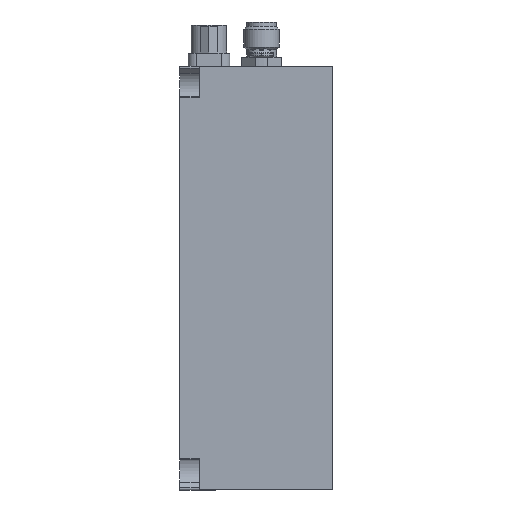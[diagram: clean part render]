
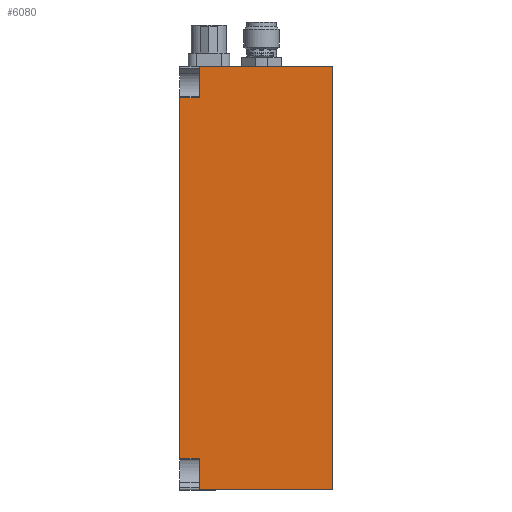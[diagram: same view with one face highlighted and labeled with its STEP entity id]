
A CAD part, left-side view. The second image highlights one B-rep face of the part: STEP entity #6080.
In plain terms, the highlighted planar face has unit normal (-1, 0, 0).
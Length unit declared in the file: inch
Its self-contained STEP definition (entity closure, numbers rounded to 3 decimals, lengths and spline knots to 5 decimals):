
#1607 = VECTOR ( 'NONE', #10086, 39.37008 ) ;
#2538 = LINE ( 'NONE', #5348, #21683 ) ;
#2617 = DIRECTION ( 'NONE',  ( 0., 1., 0. ) ) ;
#2886 = VERTEX_POINT ( 'NONE', #9912 ) ;
#3266 = DIRECTION ( 'NONE',  ( 0., -1., 0. ) ) ;
#3498 = CARTESIAN_POINT ( 'NONE',  ( -1., 1.082, -1.5 ) ) ;
#3588 = ORIENTED_EDGE ( 'NONE', *, *, #24955, .T. ) ;
#4226 = CARTESIAN_POINT ( 'NONE',  ( -1., 0.942, -1.27698 ) ) ;
#4249 = EDGE_CURVE ( 'NONE', #30197, #2886, #24858, .T. ) ;
#5152 = EDGE_CURVE ( 'NONE', #16798, #9331, #17931, .T. ) ;
#5239 = VERTEX_POINT ( 'NONE', #6098 ) ;
#5348 = CARTESIAN_POINT ( 'NONE',  ( -1., 0.942, 1.27698 ) ) ;
#5600 = VERTEX_POINT ( 'NONE', #13236 ) ;
#6038 = AXIS2_PLACEMENT_3D ( 'NONE', #10120, #24258, #9917 ) ;
#6080 = ADVANCED_FACE ( 'NONE', ( #7403 ), #28760, .F. ) ;
#6098 = CARTESIAN_POINT ( 'NONE',  ( -1., 0., -1.5 ) ) ;
#6247 = ORIENTED_EDGE ( 'NONE', *, *, #10892, .F. ) ;
#6309 = LINE ( 'NONE', #13330, #13849 ) ;
#7403 = FACE_OUTER_BOUND ( 'NONE', #13042, .T. ) ;
#7774 = CARTESIAN_POINT ( 'NONE',  ( -1., 1.082, -1.27698 ) ) ;
#8371 = CARTESIAN_POINT ( 'NONE',  ( -1., 1.082, 1.27698 ) ) ;
#8942 = LINE ( 'NONE', #3498, #10454 ) ;
#9331 = VERTEX_POINT ( 'NONE', #29510 ) ;
#9912 = CARTESIAN_POINT ( 'NONE',  ( -1., 0.942, -1.27698 ) ) ;
#9917 = DIRECTION ( 'NONE',  ( 0., 0., -1. ) ) ;
#10086 = DIRECTION ( 'NONE',  ( 0., 0., 1. ) ) ;
#10120 = CARTESIAN_POINT ( 'NONE',  ( -1., 1.082, -1.5 ) ) ;
#10454 = VECTOR ( 'NONE', #27198, 39.37008 ) ;
#10525 = CARTESIAN_POINT ( 'NONE',  ( -1., 1.082, -1.5 ) ) ;
#10892 = EDGE_CURVE ( 'NONE', #2886, #13750, #12539, .T. ) ;
#12380 = CARTESIAN_POINT ( 'NONE',  ( -1., 0.942, -1.5 ) ) ;
#12539 = LINE ( 'NONE', #4226, #30864 ) ;
#12665 = ORIENTED_EDGE ( 'NONE', *, *, #15342, .F. ) ;
#13042 = EDGE_LOOP ( 'NONE', ( #20057, #16263, #6247, #30097, #25342, #3588, #20093, #12665 ) ) ;
#13234 = DIRECTION ( 'NONE',  ( 0., 0., 1. ) ) ;
#13236 = CARTESIAN_POINT ( 'NONE',  ( -1., 0.942, 1.27698 ) ) ;
#13330 = CARTESIAN_POINT ( 'NONE',  ( -1., 0.942, 1.5 ) ) ;
#13750 = VERTEX_POINT ( 'NONE', #7774 ) ;
#13849 = VECTOR ( 'NONE', #13234, 39.37008 ) ;
#15342 = EDGE_CURVE ( 'NONE', #5600, #16798, #6309, .T. ) ;
#16263 = ORIENTED_EDGE ( 'NONE', *, *, #25460, .F. ) ;
#16682 = VECTOR ( 'NONE', #3266, 39.37008 ) ;
#16798 = VERTEX_POINT ( 'NONE', #25647 ) ;
#16908 = CARTESIAN_POINT ( 'NONE',  ( -1., 0.942, -1.27698 ) ) ;
#17552 = VECTOR ( 'NONE', #29571, 39.37008 ) ;
#17931 = LINE ( 'NONE', #22368, #17552 ) ;
#20033 = EDGE_CURVE ( 'NONE', #30197, #5239, #30150, .T. ) ;
#20057 = ORIENTED_EDGE ( 'NONE', *, *, #26027, .T. ) ;
#20093 = ORIENTED_EDGE ( 'NONE', *, *, #5152, .F. ) ;
#20218 = CARTESIAN_POINT ( 'NONE',  ( -1., 0., -1.5 ) ) ;
#21683 = VECTOR ( 'NONE', #2617, 39.37008 ) ;
#22368 = CARTESIAN_POINT ( 'NONE',  ( -1., 1.082, 1.5 ) ) ;
#24258 = DIRECTION ( 'NONE',  ( 1., 0., 0. ) ) ;
#24858 = LINE ( 'NONE', #16908, #1607 ) ;
#24955 = EDGE_CURVE ( 'NONE', #5239, #9331, #25844, .T. ) ;
#25342 = ORIENTED_EDGE ( 'NONE', *, *, #20033, .T. ) ;
#25460 = EDGE_CURVE ( 'NONE', #13750, #31038, #8942, .T. ) ;
#25647 = CARTESIAN_POINT ( 'NONE',  ( -1., 0.942, 1.5 ) ) ;
#25844 = LINE ( 'NONE', #20218, #28841 ) ;
#26027 = EDGE_CURVE ( 'NONE', #5600, #31038, #2538, .T. ) ;
#27198 = DIRECTION ( 'NONE',  ( 0., 0., 1. ) ) ;
#28329 = DIRECTION ( 'NONE',  ( 0., 1., 0. ) ) ;
#28760 = PLANE ( 'NONE',  #6038 ) ;
#28841 = VECTOR ( 'NONE', #29621, 39.37008 ) ;
#29510 = CARTESIAN_POINT ( 'NONE',  ( -1., 0., 1.5 ) ) ;
#29571 = DIRECTION ( 'NONE',  ( 0., -1., 0. ) ) ;
#29621 = DIRECTION ( 'NONE',  ( 0., 0., 1. ) ) ;
#30097 = ORIENTED_EDGE ( 'NONE', *, *, #4249, .F. ) ;
#30150 = LINE ( 'NONE', #10525, #16682 ) ;
#30197 = VERTEX_POINT ( 'NONE', #12380 ) ;
#30864 = VECTOR ( 'NONE', #28329, 39.37008 ) ;
#31038 = VERTEX_POINT ( 'NONE', #8371 ) ;
